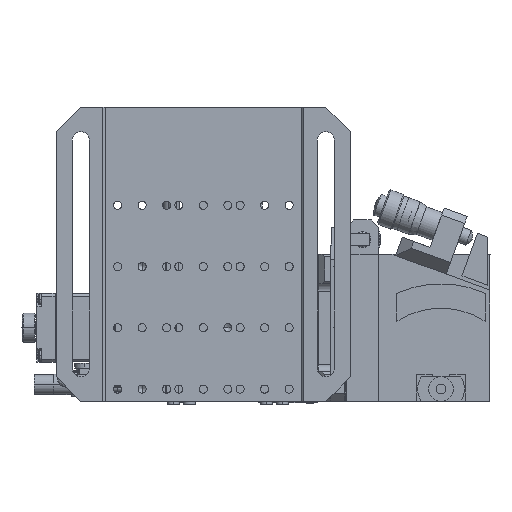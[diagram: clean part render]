
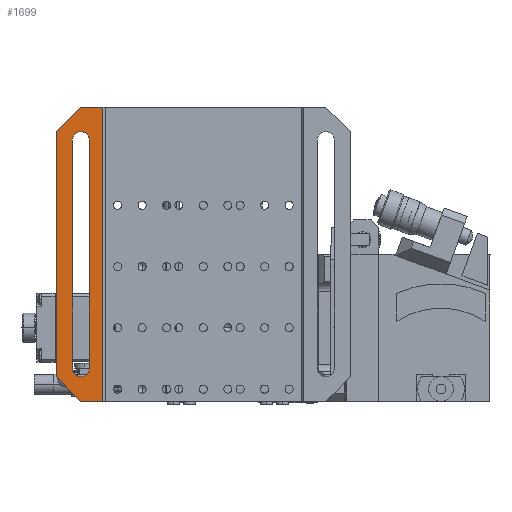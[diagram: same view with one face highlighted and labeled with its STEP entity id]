
A CAD part, front view. The second image highlights one B-rep face of the part: STEP entity #1699.
In plain terms, the highlighted planar face has unit normal (0, -1, 0).
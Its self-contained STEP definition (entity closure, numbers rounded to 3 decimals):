
#1475 = VECTOR ( 'NONE', #100333, 1000. ) ;
#1699 = ADVANCED_FACE ( 'NONE', ( #42993, #87317 ), #93917, .T. ) ;
#1963 = EDGE_CURVE ( 'NONE', #44310, #42275, #108085, .T. ) ;
#3552 = ORIENTED_EDGE ( 'NONE', *, *, #4505, .F. ) ;
#3809 = CARTESIAN_POINT ( 'NONE',  ( -60., 0., 60. ) ) ;
#4505 = EDGE_CURVE ( 'NONE', #35125, #44310, #41805, .T. ) ;
#5057 = EDGE_LOOP ( 'NONE', ( #102993, #81733, #55003, #57013, #22698, #3552 ) ) ;
#5698 = CARTESIAN_POINT ( 'NONE',  ( -46.5, 0., 13.5 ) ) ;
#5909 = AXIS2_PLACEMENT_3D ( 'NONE', #18165, #76482, #26559 ) ;
#7085 = CIRCLE ( 'NONE', #54274, 3.5 ) ;
#8912 = CARTESIAN_POINT ( 'NONE',  ( -53.5, 0., 106.5 ) ) ;
#9449 = VECTOR ( 'NONE', #108019, 1000. ) ;
#10413 = ORIENTED_EDGE ( 'NONE', *, *, #21232, .T. ) ;
#11539 = EDGE_CURVE ( 'NONE', #50773, #64195, #98067, .T. ) ;
#11803 = EDGE_CURVE ( 'NONE', #81631, #15015, #30215, .T. ) ;
#12338 = DIRECTION ( 'NONE',  ( 0., 0., -1. ) ) ;
#15015 = VERTEX_POINT ( 'NONE', #8912 ) ;
#15440 = DIRECTION ( 'NONE',  ( -1., 0., 0. ) ) ;
#18165 = CARTESIAN_POINT ( 'NONE',  ( -50., 0., 106.5 ) ) ;
#18426 = VERTEX_POINT ( 'NONE', #23757 ) ;
#18519 = LINE ( 'NONE', #3809, #60281 ) ;
#18559 = CARTESIAN_POINT ( 'NONE',  ( -50., 0., 13.5 ) ) ;
#19205 = DIRECTION ( 'NONE',  ( 0., -1., 0. ) ) ;
#20183 = EDGE_CURVE ( 'NONE', #50773, #35125, #23672, .T. ) ;
#21232 = EDGE_CURVE ( 'NONE', #105119, #66045, #92736, .T. ) ;
#22698 = ORIENTED_EDGE ( 'NONE', *, *, #1963, .F. ) ;
#23672 = LINE ( 'NONE', #83509, #1475 ) ;
#23757 = CARTESIAN_POINT ( 'NONE',  ( -50., 0., 10. ) ) ;
#24596 = CARTESIAN_POINT ( 'NONE',  ( -55., 0., 5. ) ) ;
#25876 = EDGE_CURVE ( 'NONE', #66045, #18426, #72894, .T. ) ;
#26559 = DIRECTION ( 'NONE',  ( 0., 0., -1. ) ) ;
#26973 = DIRECTION ( 'NONE',  ( 0., 0., -1. ) ) ;
#27009 = CARTESIAN_POINT ( 'NONE',  ( -50., 0., 13.5 ) ) ;
#30215 = LINE ( 'NONE', #104931, #54984 ) ;
#31019 = CARTESIAN_POINT ( 'NONE',  ( -60., 0., 10. ) ) ;
#31582 = VECTOR ( 'NONE', #43039, 1000. ) ;
#31642 = CIRCLE ( 'NONE', #5909, 3.5 ) ;
#31658 = LINE ( 'NONE', #24596, #9449 ) ;
#34035 = VECTOR ( 'NONE', #12338, 1000. ) ;
#35125 = VERTEX_POINT ( 'NONE', #47421 ) ;
#35357 = DIRECTION ( 'NONE',  ( 0., 0., -1. ) ) ;
#38483 = CARTESIAN_POINT ( 'NONE',  ( -46.5, 0., 106.5 ) ) ;
#41614 = VECTOR ( 'NONE', #15440, 1000. ) ;
#41760 = CARTESIAN_POINT ( 'NONE',  ( -41., 0., 0. ) ) ;
#41805 = LINE ( 'NONE', #88422, #86171 ) ;
#42275 = VERTEX_POINT ( 'NONE', #102529 ) ;
#42993 = FACE_BOUND ( 'NONE', #45458, .T. ) ;
#43039 = DIRECTION ( 'NONE',  ( -0.707, 0., -0.707 ) ) ;
#43165 = ORIENTED_EDGE ( 'NONE', *, *, #11803, .T. ) ;
#44310 = VERTEX_POINT ( 'NONE', #41760 ) ;
#45458 = EDGE_LOOP ( 'NONE', ( #43165, #88606, #10413, #92549, #74735 ) ) ;
#46629 = DIRECTION ( 'NONE',  ( 0., 0., 1. ) ) ;
#47021 = VERTEX_POINT ( 'NONE', #31019 ) ;
#47421 = CARTESIAN_POINT ( 'NONE',  ( -41., 0., 120. ) ) ;
#47947 = EDGE_CURVE ( 'NONE', #47021, #64195, #18519, .T. ) ;
#50491 = EDGE_CURVE ( 'NONE', #47021, #42275, #31658, .T. ) ;
#50773 = VERTEX_POINT ( 'NONE', #62533 ) ;
#52334 = CARTESIAN_POINT ( 'NONE',  ( -41., 0., 0. ) ) ;
#54274 = AXIS2_PLACEMENT_3D ( 'NONE', #18559, #76867, #26973 ) ;
#54984 = VECTOR ( 'NONE', #46629, 1000. ) ;
#55003 = ORIENTED_EDGE ( 'NONE', *, *, #47947, .F. ) ;
#57013 = ORIENTED_EDGE ( 'NONE', *, *, #50491, .T. ) ;
#59856 = CARTESIAN_POINT ( 'NONE',  ( -55., 0., 115. ) ) ;
#60281 = VECTOR ( 'NONE', #95313, 1000. ) ;
#60931 = EDGE_CURVE ( 'NONE', #18426, #81631, #7085, .T. ) ;
#62345 = CARTESIAN_POINT ( 'NONE',  ( -46.5, 0., 60. ) ) ;
#62533 = CARTESIAN_POINT ( 'NONE',  ( -50., 0., 120. ) ) ;
#64195 = VERTEX_POINT ( 'NONE', #67548 ) ;
#66045 = VERTEX_POINT ( 'NONE', #5698 ) ;
#67332 = CARTESIAN_POINT ( 'NONE',  ( -53.5, 0., 13.5 ) ) ;
#67548 = CARTESIAN_POINT ( 'NONE',  ( -60., 0., 110. ) ) ;
#68405 = AXIS2_PLACEMENT_3D ( 'NONE', #27009, #85283, #35357 ) ;
#72894 = CIRCLE ( 'NONE', #68405, 3.5 ) ;
#73723 = CARTESIAN_POINT ( 'NONE',  ( 0., 0., 0. ) ) ;
#74735 = ORIENTED_EDGE ( 'NONE', *, *, #60931, .T. ) ;
#76482 = DIRECTION ( 'NONE',  ( 0., 1., 0. ) ) ;
#76867 = DIRECTION ( 'NONE',  ( 0., 1., 0. ) ) ;
#77497 = DIRECTION ( 'NONE',  ( 0., 0., 1. ) ) ;
#81631 = VERTEX_POINT ( 'NONE', #67332 ) ;
#81733 = ORIENTED_EDGE ( 'NONE', *, *, #11539, .T. ) ;
#83509 = CARTESIAN_POINT ( 'NONE',  ( 0., 0., 120. ) ) ;
#85283 = DIRECTION ( 'NONE',  ( 0., 1., 0. ) ) ;
#86171 = VECTOR ( 'NONE', #96822, 1000. ) ;
#87317 = FACE_OUTER_BOUND ( 'NONE', #5057, .T. ) ;
#87469 = EDGE_CURVE ( 'NONE', #15015, #105119, #31642, .T. ) ;
#88422 = CARTESIAN_POINT ( 'NONE',  ( -41., 0., 60. ) ) ;
#88606 = ORIENTED_EDGE ( 'NONE', *, *, #87469, .T. ) ;
#89174 = AXIS2_PLACEMENT_3D ( 'NONE', #52334, #19205, #77497 ) ;
#92549 = ORIENTED_EDGE ( 'NONE', *, *, #25876, .T. ) ;
#92736 = LINE ( 'NONE', #62345, #34035 ) ;
#93917 = PLANE ( 'NONE',  #89174 ) ;
#95313 = DIRECTION ( 'NONE',  ( 0., 0., 1. ) ) ;
#96822 = DIRECTION ( 'NONE',  ( 0., 0., -1. ) ) ;
#98067 = LINE ( 'NONE', #59856, #31582 ) ;
#100333 = DIRECTION ( 'NONE',  ( 1., 0., 0. ) ) ;
#102529 = CARTESIAN_POINT ( 'NONE',  ( -50., 0., 0. ) ) ;
#102993 = ORIENTED_EDGE ( 'NONE', *, *, #20183, .F. ) ;
#104931 = CARTESIAN_POINT ( 'NONE',  ( -53.5, 0., 60. ) ) ;
#105119 = VERTEX_POINT ( 'NONE', #38483 ) ;
#108019 = DIRECTION ( 'NONE',  ( 0.707, 0., -0.707 ) ) ;
#108085 = LINE ( 'NONE', #73723, #41614 ) ;
